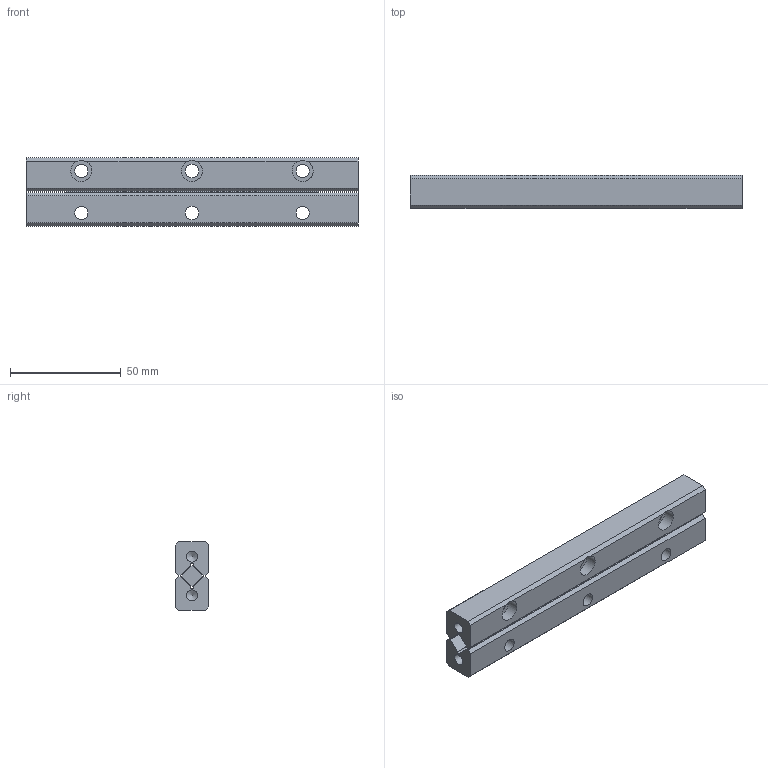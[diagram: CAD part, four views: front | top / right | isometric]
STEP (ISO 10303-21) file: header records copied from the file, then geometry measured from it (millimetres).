
FILE_DESCRIPTION((''),'2;1');
FILE_NAME('D:\製品 (図面)\カタログ用3D\リニアガイド関連\STEP形式\ACS6\ACS6150.stp','2010-07-29T15:42:09',('Tsuchiya'),(''),'Autodesk Inventor 10','Autodesk Inventor 10','');
FILE_SCHEMA(('AUTOMOTIVE_DESIGN { 1 0 10303 214 1 1 1 1 }'));
Length unit declared in the file: millimetre
Products named in the file (4): ACS6150; ACS61501; ACS61502; ACS61503
Assembly tree (3 placements, depth 2):
  ACS6150
    ACS61501
    ACS61502
    ACS61503
Bounding box: 150 x 15 x 31 mm (x, y, z)
Volume: 60276.5 mm3; surface area: 25353.7 mm2
Topology: 3 solids, 3 shells, 80 faces, 208 edges, 138 vertices
Faces by surface type: plane 52, bspline 22, cylinder 4, cone 2
Full cylindrical faces by diameter (mm): 5 x2
Entity records: 2565 total; most frequent: CARTESIAN_POINT 679, ORIENTED_EDGE 352, DIRECTION 348, EDGE_CURVE 176, VECTOR 134, LINE 134, VERTEX_POINT 126, EDGE_LOOP 116
